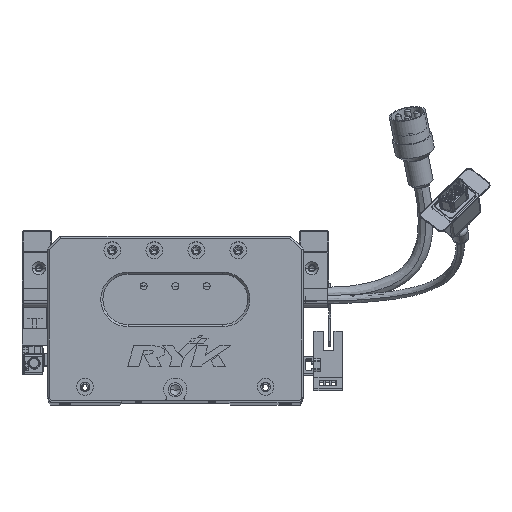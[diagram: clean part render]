
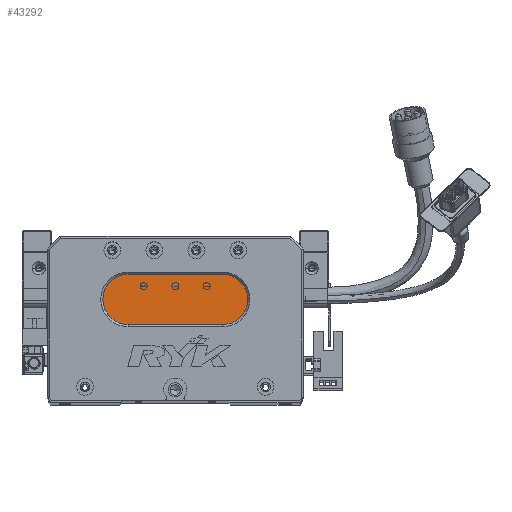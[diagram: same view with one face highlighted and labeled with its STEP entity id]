
A CAD part, top view. The second image highlights one B-rep face of the part: STEP entity #43292.
In plain terms, the highlighted planar face has unit normal (0, 0, 1) as drawn and (0, 0, -1) by its records, which use the part's own axes.
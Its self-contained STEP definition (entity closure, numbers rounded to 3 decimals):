
#2697 = CIRCLE ( 'NONE', #64673, 12. ) ;
#4877 = CARTESIAN_POINT ( 'NONE',  ( 83.5, 60., 13. ) ) ;
#5399 = DIRECTION ( 'NONE',  ( -1., 0., 0. ) ) ;
#5898 = CARTESIAN_POINT ( 'NONE',  ( 38.5, 48., 13. ) ) ;
#10465 = DIRECTION ( 'NONE',  ( -1., 0., 0. ) ) ;
#11352 = CIRCLE ( 'NONE', #44791, 12. ) ;
#13336 = CARTESIAN_POINT ( 'NONE',  ( 38.5, 60., 13. ) ) ;
#13698 = VERTEX_POINT ( 'NONE', #14225 ) ;
#14225 = CARTESIAN_POINT ( 'NONE',  ( 38.5, 36., 13. ) ) ;
#17472 = DIRECTION ( 'NONE',  ( 0., 0., -1. ) ) ;
#17735 = CARTESIAN_POINT ( 'NONE',  ( 38.5, 48., 13. ) ) ;
#21868 = CARTESIAN_POINT ( 'NONE',  ( 83.5, 36., 13. ) ) ;
#23016 = CARTESIAN_POINT ( 'NONE',  ( 83.5, 36., 13. ) ) ;
#23052 = ORIENTED_EDGE ( 'NONE', *, *, #34617, .T. ) ;
#26483 = VECTOR ( 'NONE', #5399, 1000. ) ;
#26883 = PLANE ( 'NONE',  #62036 ) ;
#27131 = DIRECTION ( 'NONE',  ( -1., 0., 0. ) ) ;
#27553 = EDGE_CURVE ( 'NONE', #70588, #46004, #73391, .T. ) ;
#29175 = ORIENTED_EDGE ( 'NONE', *, *, #62220, .T. ) ;
#29177 = CIRCLE ( 'NONE', #69739, 12. ) ;
#29344 = ORIENTED_EDGE ( 'NONE', *, *, #27553, .T. ) ;
#29363 = DIRECTION ( 'NONE',  ( -1., 0., 0. ) ) ;
#29649 = FACE_OUTER_BOUND ( 'NONE', #31927, .T. ) ;
#31927 = EDGE_LOOP ( 'NONE', ( #29175, #66238, #23052, #49323, #29344 ) ) ;
#33358 = EDGE_CURVE ( 'NONE', #65662, #13698, #63653, .T. ) ;
#34617 = EDGE_CURVE ( 'NONE', #13698, #62704, #2697, .T. ) ;
#38834 = CARTESIAN_POINT ( 'NONE',  ( 83.5, 48., 13. ) ) ;
#43292 = ADVANCED_FACE ( 'NONE', ( #29649 ), #26883, .T. ) ;
#44729 = CARTESIAN_POINT ( 'NONE',  ( 83.5, 60., 13. ) ) ;
#44791 = AXIS2_PLACEMENT_3D ( 'NONE', #51177, #74475, #10465 ) ;
#44972 = DIRECTION ( 'NONE',  ( 1., 0., 0. ) ) ;
#46004 = VERTEX_POINT ( 'NONE', #4877 ) ;
#49323 = ORIENTED_EDGE ( 'NONE', *, *, #51675, .T. ) ;
#51177 = CARTESIAN_POINT ( 'NONE',  ( 83.5, 48., 13. ) ) ;
#51675 = EDGE_CURVE ( 'NONE', #62704, #70588, #29177, .T. ) ;
#62036 = AXIS2_PLACEMENT_3D ( 'NONE', #38834, #73276, #27131 ) ;
#62220 = EDGE_CURVE ( 'NONE', #46004, #65662, #11352, .T. ) ;
#62704 = VERTEX_POINT ( 'NONE', #73155 ) ;
#63653 = LINE ( 'NONE', #23016, #26483 ) ;
#64064 = DIRECTION ( 'NONE',  ( 0., 0., -1. ) ) ;
#64673 = AXIS2_PLACEMENT_3D ( 'NONE', #17735, #64064, #29363 ) ;
#65662 = VERTEX_POINT ( 'NONE', #21868 ) ;
#65806 = DIRECTION ( 'NONE',  ( -1., 0., 0. ) ) ;
#66238 = ORIENTED_EDGE ( 'NONE', *, *, #33358, .T. ) ;
#67932 = VECTOR ( 'NONE', #44972, 1000. ) ;
#69739 = AXIS2_PLACEMENT_3D ( 'NONE', #5898, #17472, #65806 ) ;
#70588 = VERTEX_POINT ( 'NONE', #13336 ) ;
#73155 = CARTESIAN_POINT ( 'NONE',  ( 26.5, 48., 13. ) ) ;
#73276 = DIRECTION ( 'NONE',  ( 0., 0., -1. ) ) ;
#73391 = LINE ( 'NONE', #44729, #67932 ) ;
#74475 = DIRECTION ( 'NONE',  ( 0., 0., -1. ) ) ;
